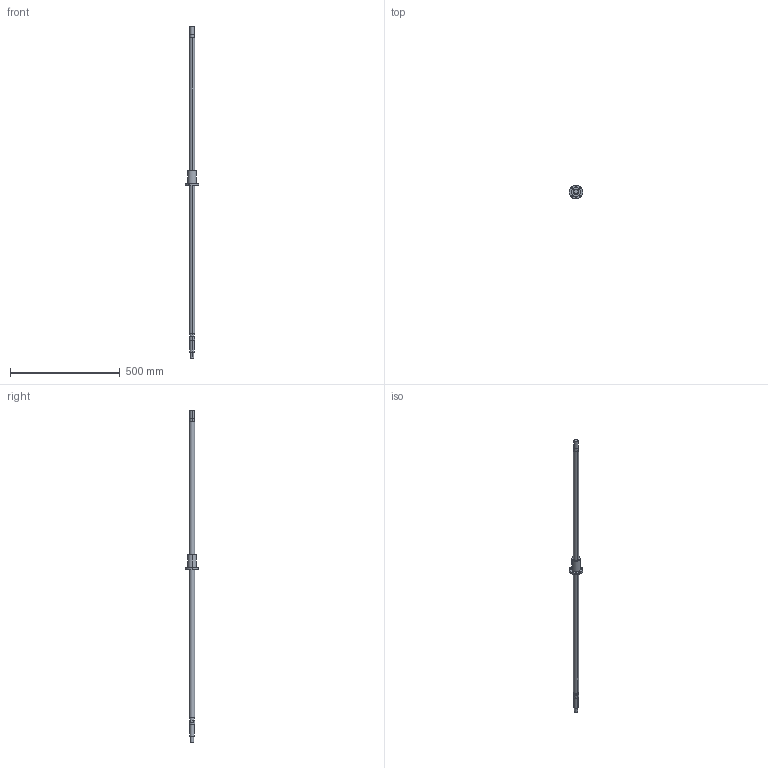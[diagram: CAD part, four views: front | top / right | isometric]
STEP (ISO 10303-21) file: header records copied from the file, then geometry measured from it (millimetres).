
FILE_DESCRIPTION((''),'2;1');
FILE_NAME('25-25K2','2008-04-11T',('cmliu'),(''),'PRO/ENGINEER BY PARAMETRIC TECHNOLOGY CORPORATION, 2004110','PRO/ENGINEER BY PARAMETRIC TECHNOLOGY CORPORATION, 2004110','');
FILE_SCHEMA(('CONFIG_CONTROL_DESIGN'));
Length unit declared in the file: millimetre
Products named in the file (1): 25-25K2
Bounding box: 62 x 62 x 1513 mm (x, y, z)
Volume: 781804.2 mm3; surface area: 127623.3 mm2
Topology: 1 solids, 1 shells, 56 faces, 126 edges, 84 vertices
Faces by surface type: cylinder 39, plane 17
Entity records: 1715 total; most frequent: CARTESIAN_POINT 321, DIRECTION 310, ORIENTED_EDGE 252, AXIS2_PLACEMENT_3D 132, EDGE_CURVE 126, VERTEX_POINT 84, EDGE_LOOP 80, CIRCLE 76
